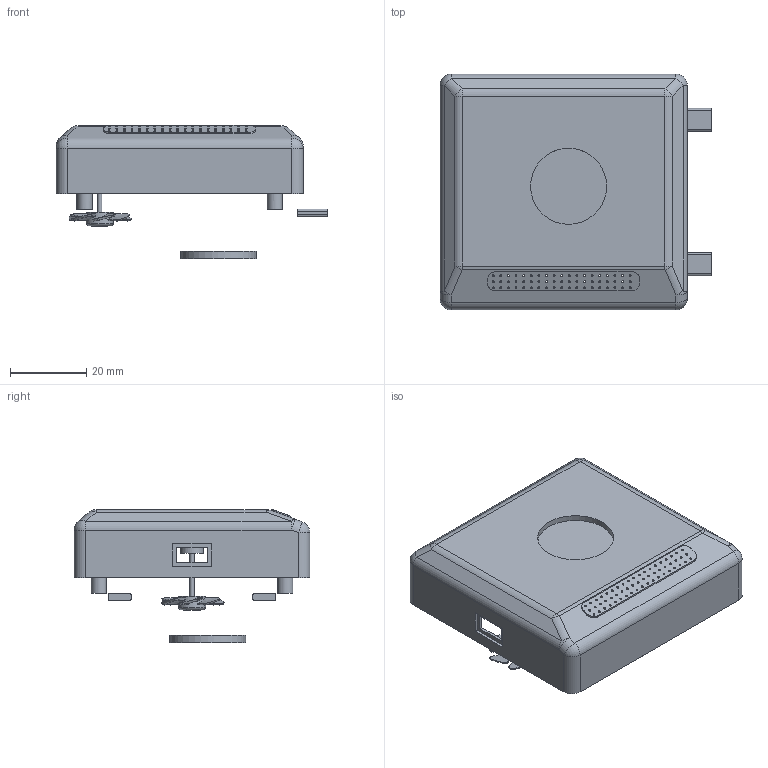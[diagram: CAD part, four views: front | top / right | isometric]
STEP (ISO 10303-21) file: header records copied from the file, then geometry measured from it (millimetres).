
FILE_DESCRIPTION(/* description */ (''),/* implementation_level */ '2;1');
FILE_NAME(/* name */ '样题.stp',/* time_stamp */ '2022-04-02T17:03:56+08:00',/* author */ (''),/* organization */ (''),/* preprocessor_version */ 'ST-DEVELOPER v16.7',/* originating_system */ 'SIEMENS PLM Software NX 12.0',/* authorisation */ '');
FILE_SCHEMA (('AUTOMOTIVE_DESIGN { 1 0 10303 214 3 1 1 1 }'));
Length unit declared in the file: millimetre
Products named in the file (1): 1
Bounding box: 71.5 x 62 x 35.04 mm (x, y, z)
Volume: 13060.6 mm3; surface area: 19577.2 mm2
Topology: 8 solids, 9 shells, 369 faces, 942 edges, 593 vertices
Faces by surface type: plane 143, cylinder 85, extrusion 57, bspline 56, sphere 27, torus 1
Full cylindrical faces by diameter (mm): 1.129 x2, 2 x4, 2.509 x1, 4 x4, 5.734 x1, 6 x1, 7.168 x1, 20 x3
Entity records: 22108 total; most frequent: CARTESIAN_POINT 13801, ORIENTED_EDGE 1672, DIRECTION 1457, EDGE_CURVE 836, EDGE_LOOP 584, VERTEX_POINT 578, AXIS2_PLACEMENT_3D 521, VECTOR 415
